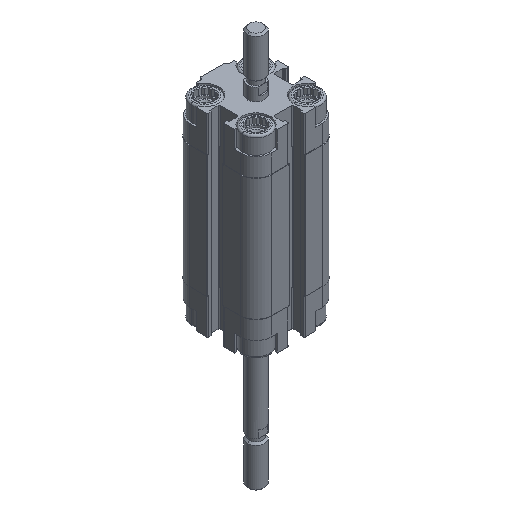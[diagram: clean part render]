
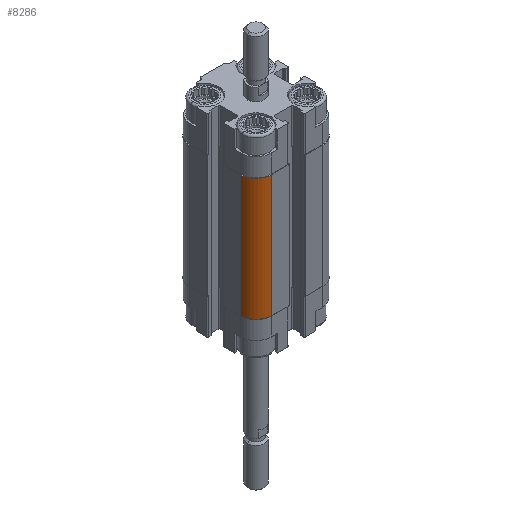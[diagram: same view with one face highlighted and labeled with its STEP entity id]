
A CAD part, isometric view. The second image highlights one B-rep face of the part: STEP entity #8286.
In plain terms, the highlighted cylindrical face has radius 5.5 mm (diameter 11 mm), a partial arc.
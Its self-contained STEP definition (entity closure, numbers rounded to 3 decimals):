
#2786 = EDGE_CURVE ( 'NONE', #9062, #13517, #14949, .T. ) ;
#4054 = CARTESIAN_POINT ( 'NONE',  ( -9., -9., -55.5 ) ) ;
#4260 = CARTESIAN_POINT ( 'NONE',  ( -9., -14.5, -55.5 ) ) ;
#4334 = ORIENTED_EDGE ( 'NONE', *, *, #2786, .T. ) ;
#5424 = CARTESIAN_POINT ( 'NONE',  ( -9., -14.5, -55.5 ) ) ;
#5899 = EDGE_CURVE ( 'NONE', #6553, #13080, #14805, .T. ) ;
#6152 = CIRCLE ( 'NONE', #16194, 5.5 ) ;
#6553 = VERTEX_POINT ( 'NONE', #16389 ) ;
#8286 = ADVANCED_FACE ( 'NONE', ( #8442 ), #15004, .T. ) ;
#8352 = DIRECTION ( 'NONE',  ( 0., 0., -1. ) ) ;
#8440 = DIRECTION ( 'NONE',  ( 0., 0., 1. ) ) ;
#8442 = FACE_OUTER_BOUND ( 'NONE', #15874, .T. ) ;
#8619 = AXIS2_PLACEMENT_3D ( 'NONE', #16518, #8440, #15266 ) ;
#8742 = CARTESIAN_POINT ( 'NONE',  ( -14.5, -9., -12.5 ) ) ;
#8763 = VECTOR ( 'NONE', #9723, 1000. ) ;
#9062 = VERTEX_POINT ( 'NONE', #5424 ) ;
#9469 = ORIENTED_EDGE ( 'NONE', *, *, #17543, .T. ) ;
#9575 = EDGE_CURVE ( 'NONE', #13080, #13517, #6152, .T. ) ;
#9723 = DIRECTION ( 'NONE',  ( 0., 0., 1. ) ) ;
#9783 = DIRECTION ( 'NONE',  ( 0., 0., 1. ) ) ;
#9938 = CARTESIAN_POINT ( 'NONE',  ( -14.5, -9., -55.5 ) ) ;
#10032 = DIRECTION ( 'NONE',  ( 0., 0., 1. ) ) ;
#12421 = ORIENTED_EDGE ( 'NONE', *, *, #5899, .F. ) ;
#12563 = CARTESIAN_POINT ( 'NONE',  ( -9., -9., -12.5 ) ) ;
#13080 = VERTEX_POINT ( 'NONE', #8742 ) ;
#13517 = VERTEX_POINT ( 'NONE', #15894 ) ;
#13910 = DIRECTION ( 'NONE',  ( -1., 0., 0. ) ) ;
#14364 = CIRCLE ( 'NONE', #8619, 5.5 ) ;
#14805 = LINE ( 'NONE', #9938, #16245 ) ;
#14949 = LINE ( 'NONE', #4260, #8763 ) ;
#14954 = ORIENTED_EDGE ( 'NONE', *, *, #9575, .F. ) ;
#15004 = CYLINDRICAL_SURFACE ( 'NONE', #17346, 5.5 ) ;
#15175 = DIRECTION ( 'NONE',  ( -1., 0., 0. ) ) ;
#15266 = DIRECTION ( 'NONE',  ( -1., 0., 0. ) ) ;
#15874 = EDGE_LOOP ( 'NONE', ( #14954, #12421, #9469, #4334 ) ) ;
#15894 = CARTESIAN_POINT ( 'NONE',  ( -9., -14.5, -12.5 ) ) ;
#16194 = AXIS2_PLACEMENT_3D ( 'NONE', #12563, #9783, #13910 ) ;
#16245 = VECTOR ( 'NONE', #10032, 1000. ) ;
#16389 = CARTESIAN_POINT ( 'NONE',  ( -14.5, -9., -55.5 ) ) ;
#16518 = CARTESIAN_POINT ( 'NONE',  ( -9., -9., -55.5 ) ) ;
#17346 = AXIS2_PLACEMENT_3D ( 'NONE', #4054, #8352, #15175 ) ;
#17543 = EDGE_CURVE ( 'NONE', #6553, #9062, #14364, .T. ) ;
